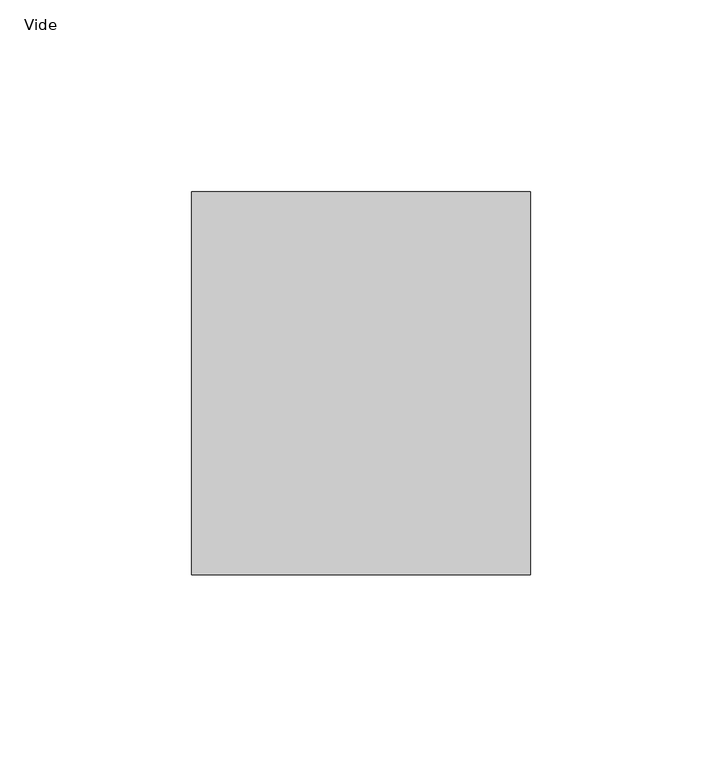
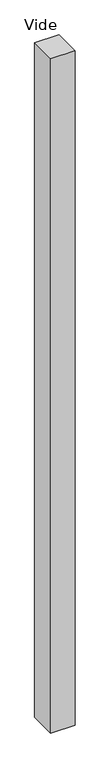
"""IFC4 building model written with IfcOpenShell, lengths in millimetres: plate geometry, Panneau système vide : Vide."""

from ifc_helpers import new_model, si_unit, origin, origin_with_axes, place, context, project, spatial, polyline, outline, extrude, source, transform, mapped, element, save


def vide_1ae6cc3c(model_context):
    return source(origin(), model_context, "Body", "SweptSolid", [
        extrude(outline(polyline([(44.2688399, 50.0), (-44.2688399, 50.0), (-44.2688399, 150.0), (44.2688399, 150.0), (44.2688399, 50.0)])), origin_with_axes(), (0.0, 0.0, 1.0), 2588.190451),
    ])


if __name__ == "__main__":
    model = new_model("IFC4")
    model_context = context("Model", 3, world=origin())
    ifc_project = project(units=[si_unit("LENGTHUNIT", "METRE", prefix="MILLI")], contexts=[model_context])
    site = spatial("IfcSite", under=ifc_project)
    building = spatial("IfcBuilding", under=site)
    placement = place(None, origin())
    vide_shape = vide_1ae6cc3c(model_context)
    element("IfcPlate", 1, ObjectType="Panneau système vide : Vide", at=placement, inside=building, context=model_context, shape_type="MappedRepresentation", body=[
        mapped(vide_shape, transform((0.0, 0.0, 0.0), x_axis=(1.0, 0.0, 0.0), y_axis=(0.0, 1.0, 0.0), z_axis=(0.0, 0.0, 1.0))),
    ])
    save(model, "model.ifc")
